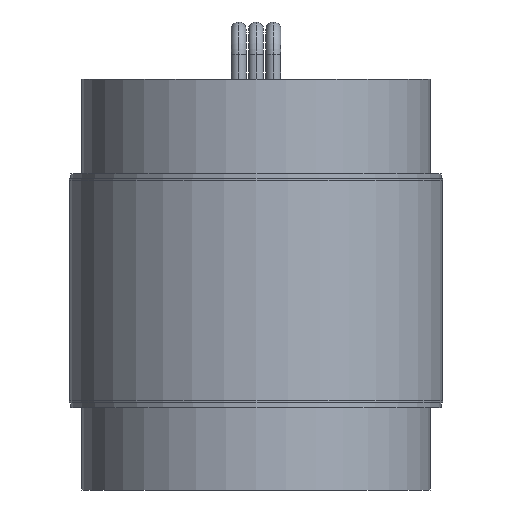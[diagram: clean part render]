
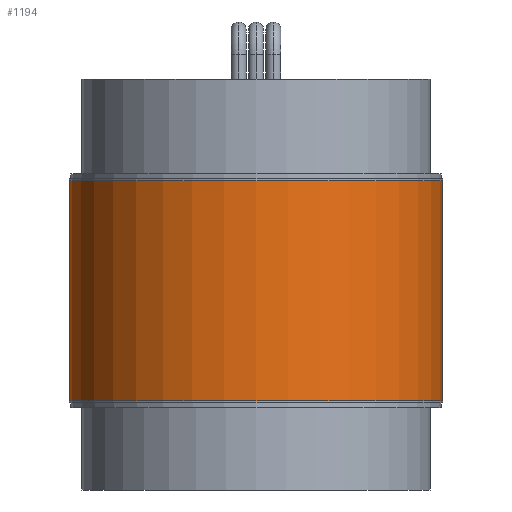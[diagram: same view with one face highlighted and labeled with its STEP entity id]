
A CAD part, front view. The second image highlights one B-rep face of the part: STEP entity #1194.
In plain terms, the highlighted cylindrical face has radius 19.05 mm (diameter 38.1 mm), a partial arc.
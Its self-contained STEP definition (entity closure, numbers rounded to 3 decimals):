
#44 = DIRECTION ( 'NONE',  ( 1., 0., 0. ) ) ;
#181 = CARTESIAN_POINT ( 'NONE',  ( -19.05, 0., -11.938 ) ) ;
#330 = DIRECTION ( 'NONE',  ( 1., 0., 0. ) ) ;
#403 = ORIENTED_EDGE ( 'NONE', *, *, #629, .T. ) ;
#434 = CARTESIAN_POINT ( 'NONE',  ( 0., 0., 11.227 ) ) ;
#525 = VERTEX_POINT ( 'NONE', #998 ) ;
#544 = DIRECTION ( 'NONE',  ( 0., 0., 1. ) ) ;
#575 = DIRECTION ( 'NONE',  ( 0., 0., 1. ) ) ;
#622 = DIRECTION ( 'NONE',  ( 1., 0., 0. ) ) ;
#629 = EDGE_CURVE ( 'NONE', #525, #2185, #1010, .T. ) ;
#669 = AXIS2_PLACEMENT_3D ( 'NONE', #1526, #1897, #622 ) ;
#697 = AXIS2_PLACEMENT_3D ( 'NONE', #1766, #887, #330 ) ;
#770 = DIRECTION ( 'NONE',  ( 0., 0., 1. ) ) ;
#887 = DIRECTION ( 'NONE',  ( 0., 0., 1. ) ) ;
#918 = VECTOR ( 'NONE', #544, 1000. ) ;
#998 = CARTESIAN_POINT ( 'NONE',  ( -19.05, 0., -11.227 ) ) ;
#1010 = CIRCLE ( 'NONE', #669, 19.05 ) ;
#1025 = FACE_OUTER_BOUND ( 'NONE', #1190, .T. ) ;
#1077 = VERTEX_POINT ( 'NONE', #1174 ) ;
#1174 = CARTESIAN_POINT ( 'NONE',  ( -19.05, 0., 11.227 ) ) ;
#1190 = EDGE_LOOP ( 'NONE', ( #1809, #403, #2188, #1828 ) ) ;
#1194 = ADVANCED_FACE ( 'NONE', ( #1025 ), #2263, .T. ) ;
#1282 = VECTOR ( 'NONE', #770, 1000. ) ;
#1325 = LINE ( 'NONE', #181, #918 ) ;
#1369 = EDGE_CURVE ( 'NONE', #525, #1077, #1325, .T. ) ;
#1526 = CARTESIAN_POINT ( 'NONE',  ( 0., 0., -11.227 ) ) ;
#1570 = AXIS2_PLACEMENT_3D ( 'NONE', #434, #575, #44 ) ;
#1688 = CARTESIAN_POINT ( 'NONE',  ( 19.05, 0., -11.938 ) ) ;
#1766 = CARTESIAN_POINT ( 'NONE',  ( 0., 0., -11.938 ) ) ;
#1809 = ORIENTED_EDGE ( 'NONE', *, *, #1369, .F. ) ;
#1828 = ORIENTED_EDGE ( 'NONE', *, *, #2257, .F. ) ;
#1842 = CARTESIAN_POINT ( 'NONE',  ( 19.05, 0., -11.227 ) ) ;
#1897 = DIRECTION ( 'NONE',  ( 0., 0., 1. ) ) ;
#1973 = LINE ( 'NONE', #1688, #1282 ) ;
#1983 = VERTEX_POINT ( 'NONE', #2319 ) ;
#2139 = EDGE_CURVE ( 'NONE', #2185, #1983, #1973, .T. ) ;
#2185 = VERTEX_POINT ( 'NONE', #1842 ) ;
#2188 = ORIENTED_EDGE ( 'NONE', *, *, #2139, .T. ) ;
#2205 = CIRCLE ( 'NONE', #1570, 19.05 ) ;
#2257 = EDGE_CURVE ( 'NONE', #1077, #1983, #2205, .T. ) ;
#2263 = CYLINDRICAL_SURFACE ( 'NONE', #697, 19.05 ) ;
#2319 = CARTESIAN_POINT ( 'NONE',  ( 19.05, 0., 11.227 ) ) ;
